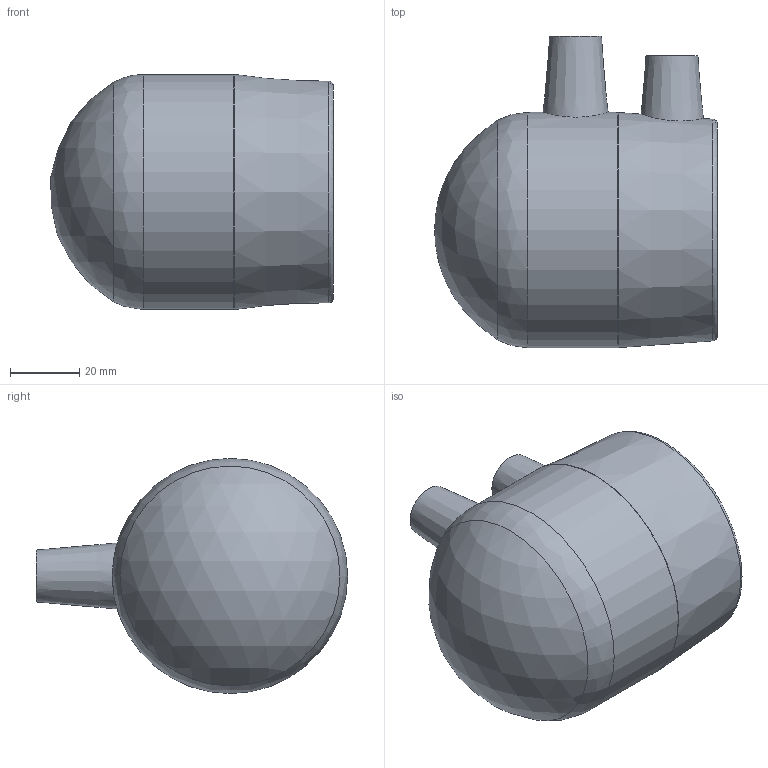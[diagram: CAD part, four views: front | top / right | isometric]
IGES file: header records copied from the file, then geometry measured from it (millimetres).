
Global section: file name: 494204050.ipt; native system: Autodesk Inventor 2015; preprocessor: unknown; author: Кирилл,,11,0; organization: 20170630.203301; date: 20171106.094139; units: millimetre
Bounding box: 81.75 x 90 x 68 mm (x, y, z)
Volume: 132567.6 mm3; surface area: 33893.2 mm2
Topology: 1 solids, 1 shells, 45 faces, 111 edges, 74 vertices
Faces by surface type: plane 24, revolution 14, cylinder 3, cone 3, sphere 1
Full cylindrical faces by diameter (mm): 4 x2, 68 x1
